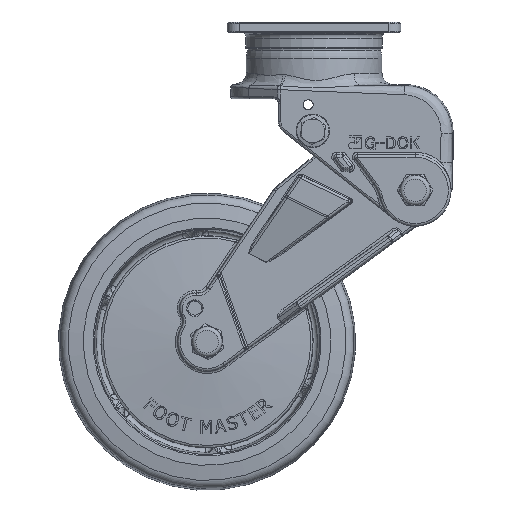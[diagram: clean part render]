
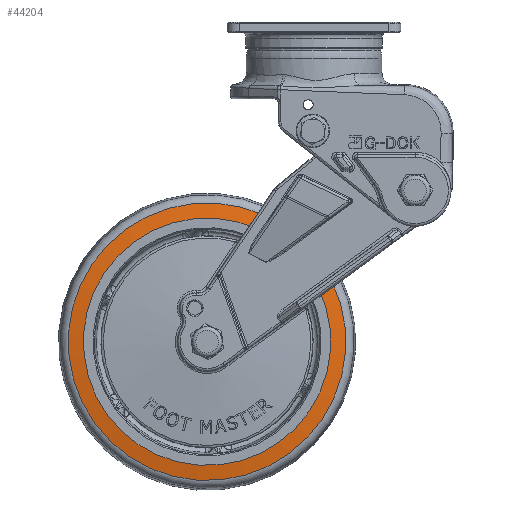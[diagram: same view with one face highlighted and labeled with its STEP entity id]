
A CAD part, front view. The second image highlights one B-rep face of the part: STEP entity #44204.
In plain terms, the highlighted conical face has half-angle 80.918 degrees and reference radius 55.194 mm.
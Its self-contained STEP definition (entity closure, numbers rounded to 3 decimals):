
#4777=FACE_OUTER_BOUND('',#7461,.T.);
#7461=EDGE_LOOP('',(#28111,#28112,#28113,#28114,#28115));
#10299=LINE('',#61611,#12923);
#12923=VECTOR('',#50955,55.194);
#15551=CIRCLE('',#46918,58.373);
#15552=CIRCLE('',#46919,58.373);
#15553=CIRCLE('',#46920,52.016);
#17430=VERTEX_POINT('',#61606);
#17431=VERTEX_POINT('',#61607);
#17432=VERTEX_POINT('',#61610);
#21491=EDGE_CURVE('',#17430,#17431,#15551,.T.);
#21492=EDGE_CURVE('',#17431,#17430,#15552,.T.);
#21493=EDGE_CURVE('',#17431,#17432,#10299,.T.);
#21494=EDGE_CURVE('',#17432,#17432,#15553,.T.);
#28111=ORIENTED_EDGE('',*,*,#21491,.F.);
#28112=ORIENTED_EDGE('',*,*,#21492,.F.);
#28113=ORIENTED_EDGE('',*,*,#21493,.T.);
#28114=ORIENTED_EDGE('',*,*,#21494,.T.);
#28115=ORIENTED_EDGE('',*,*,#21493,.F.);
#41335=CONICAL_SURFACE('',#46917,55.194,1.412);
#44204=ADVANCED_FACE('',(#4777),#41335,.T.);
#46917=AXIS2_PLACEMENT_3D('',#61605,#50949,#50950);
#46918=AXIS2_PLACEMENT_3D('',#61608,#50951,#50952);
#46919=AXIS2_PLACEMENT_3D('',#61609,#50953,#50954);
#46920=AXIS2_PLACEMENT_3D('',#61612,#50956,#50957);
#50949=DIRECTION('center_axis',(0.,1.,0.));
#50950=DIRECTION('ref_axis',(0.809,0.,0.588));
#50951=DIRECTION('center_axis',(0.,1.,0.));
#50952=DIRECTION('ref_axis',(-0.588,0.,0.809));
#50953=DIRECTION('center_axis',(0.,1.,0.));
#50954=DIRECTION('ref_axis',(-0.588,0.,0.809));
#50955=DIRECTION('',(0.799,-0.158,0.581));
#50956=DIRECTION('center_axis',(0.,1.,0.));
#50957=DIRECTION('ref_axis',(0.809,0.,0.588));
#61605=CARTESIAN_POINT('Origin',(-45.,-14.492,-134.456));
#61606=CARTESIAN_POINT('',(-10.66,-13.984,-181.659));
#61607=CARTESIAN_POINT('',(-92.203,-13.984,-168.796));
#61608=CARTESIAN_POINT('Origin',(-45.,-13.984,-134.456));
#61609=CARTESIAN_POINT('Origin',(-45.,-13.984,-134.456));
#61610=CARTESIAN_POINT('',(-87.063,-15.,-165.057));
#61611=CARTESIAN_POINT('',(-89.633,-14.492,-166.927));
#61612=CARTESIAN_POINT('Origin',(-45.,-15.,-134.456));
